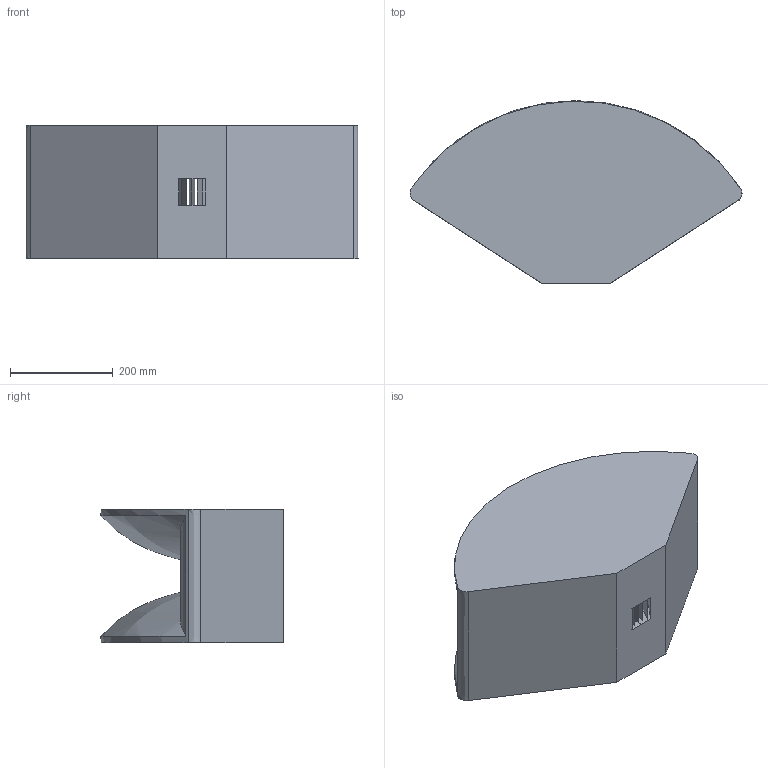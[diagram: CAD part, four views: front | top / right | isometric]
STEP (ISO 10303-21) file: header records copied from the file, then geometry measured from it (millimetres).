
FILE_DESCRIPTION(/* description */ (''),/* implementation_level */ '2;1');
FILE_NAME(/* name */ 'mk3b2_a7.step',/* time_stamp */ '2023-04-09T08:24:27+02:00',/* author */ (''),/* organization */ (''),/* preprocessor_version */ 'ST-DEVELOPER v19.2',/* originating_system */ 'Autodesk Translation Framework v12.4.0.73',/* authorisation */ '');
FILE_SCHEMA (('AUTOMOTIVE_DESIGN { 1 0 10303 214 3 1 1 }'));
Length unit declared in the file: millimetre
Products named in the file (1): (Unsaved)
Bounding box: 646.9 x 355.75 x 260 mm (x, y, z)
Volume: 27785647.5 mm3; surface area: 947729.9 mm2
Topology: 6 solids, 6 shells, 38 faces, 74 edges, 48 vertices
Faces by surface type: bspline 33, plane 5
Entity records: 25408 total; most frequent: CARTESIAN_POINT 24768, ORIENTED_EDGE 148, EDGE_CURVE 74, VERTEX_POINT 48, B_SPLINE_CURVE_WITH_KNOTS 46, DIRECTION 44, EDGE_LOOP 40, FACE_OUTER_BOUND 38
